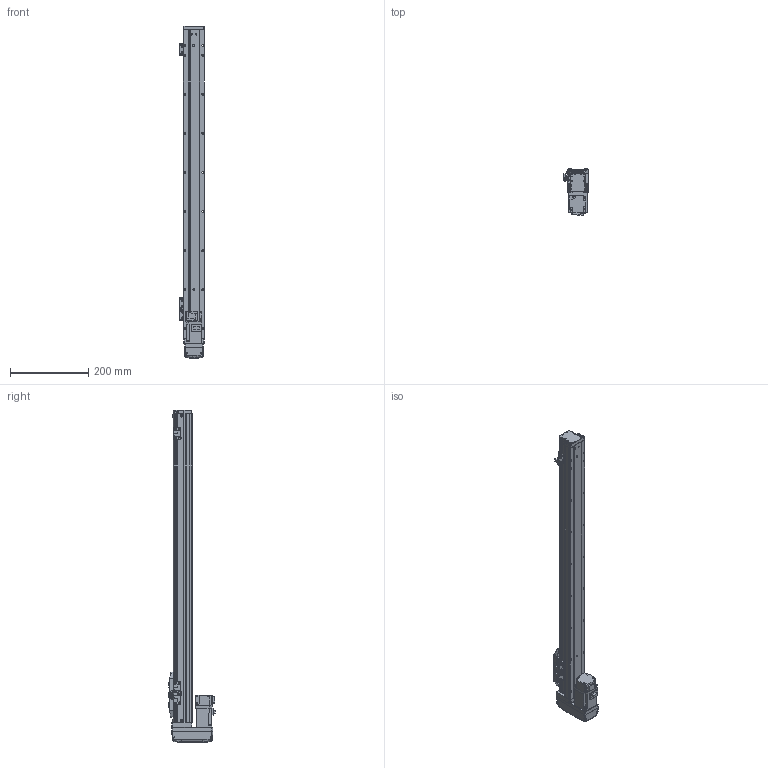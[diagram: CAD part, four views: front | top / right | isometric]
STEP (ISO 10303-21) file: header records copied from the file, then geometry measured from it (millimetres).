
FILE_DESCRIPTION (( 'STEP AP203' ), '1' );
FILE_NAME ('GTH5-650-BM-M10-C4.step', '2022-09-23T00:48:21', ( '微软用户' ), ( '微软中国' ), 'SwSTEP 2.0', 'SolidWorks 2020', '' );
FILE_SCHEMA (( 'CONFIG_CONTROL_DESIGN' ));
Length unit declared in the file: millimetre
Products named in the file (19): GTH50-027-1_BTHA50-027-2; GBT 70.1-M4×16; GBT96.1-2002 3×0.8; GTH50-026; GTH50-003; GTH50-024; GTH50-006; GTH5-650-BM-M10-C4; GTH50-013; GBT 70.1-M2.5×6; GTH50-004; GTH50-028; GBT 70.3-M3℅6; GTH50-022-1; BTH-M3X5X6; GTH50-023; HG-KR13; GTH50-001_650; GBT 70.1-M3℅6
Assembly tree (57 placements, depth 2):
  GTH5-650-BM-M10-C4
    GTH50-006
    GTH50-004
    GBT 70.3-M3℅6  x4
    BTH-M3X5X6  x8
    GTH50-001_650
    GBT 70.1-M4×16  x8
    GTH50-003
    GTH50-013
    GTH50-023  x3
    GBT 70.1-M3℅6  x12
    GBT96.1-2002 3×0.8  x6
    GTH50-024  x3
    GBT 70.1-M2.5×6  x2
    GTH50-028  x2
    GTH50-022-1
    HG-KR13
    GTH50-027-1_BTHA50-027-2
    GTH50-026
Bounding box: 63.8 x 118.9 x 850 mm (x, y, z)
Volume: 1918918.7 mm3; surface area: 317018.5 mm2
Topology: 59 solids, 59 shells, 2164 faces, 5028 edges, 3084 vertices
Faces by surface type: plane 1142, cylinder 593, cone 219, torus 162, bspline 40, sphere 8
Entity records: 40308 total; most frequent: CARTESIAN_POINT 7971, DIRECTION 6213, ORIENTED_EDGE 5970, EDGE_CURVE 2985, AXIS2_PLACEMENT_3D 2164, VERTEX_POINT 1886, LINE 1885, VECTOR 1885
